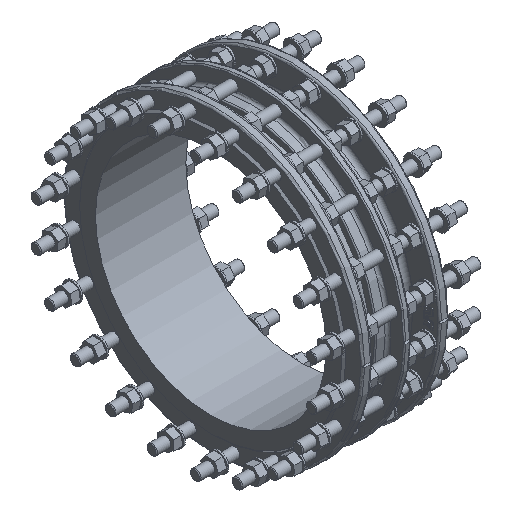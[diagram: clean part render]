
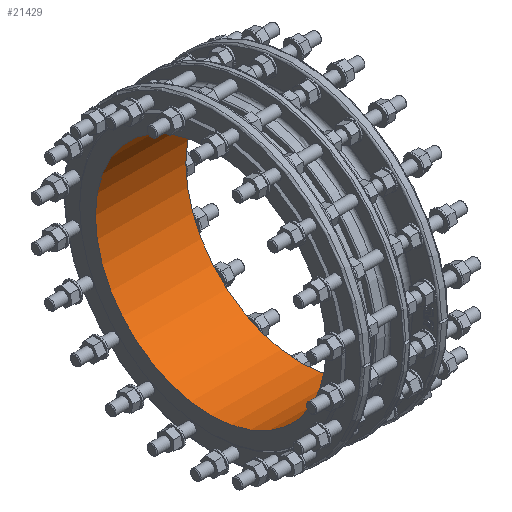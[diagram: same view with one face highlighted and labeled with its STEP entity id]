
A CAD part, isometric view. The second image highlights one B-rep face of the part: STEP entity #21429.
In plain terms, the highlighted cylindrical face has radius 300 mm (diameter 600 mm), a full revolution.
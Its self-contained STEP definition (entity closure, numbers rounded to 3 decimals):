
#341 = EDGE_LOOP ( 'NONE', ( #22688 ) ) ;
#1053 = CARTESIAN_POINT ( 'NONE',  ( -16., 0., 0. ) ) ;
#1411 = EDGE_CURVE ( 'NONE', #31275, #31275, #33744, .T. ) ;
#1559 = FACE_OUTER_BOUND ( 'NONE', #4407, .T. ) ;
#1911 = CYLINDRICAL_SURFACE ( 'NONE', #34975, 300. ) ;
#4407 = EDGE_LOOP ( 'NONE', ( #14507 ) ) ;
#4454 = DIRECTION ( 'NONE',  ( 0., 0., 1. ) ) ;
#7522 = DIRECTION ( 'NONE',  ( -1., 0., 0. ) ) ;
#14507 = ORIENTED_EDGE ( 'NONE', *, *, #1411, .F. ) ;
#15172 = CARTESIAN_POINT ( 'NONE',  ( -16., 0., -300. ) ) ;
#15300 = CARTESIAN_POINT ( 'NONE',  ( 0., 0., 0. ) ) ;
#16412 = AXIS2_PLACEMENT_3D ( 'NONE', #1053, #23839, #26199 ) ;
#17444 = CARTESIAN_POINT ( 'NONE',  ( 219., 0., 300. ) ) ;
#18912 = DIRECTION ( 'NONE',  ( -1., 0., 0. ) ) ;
#21267 = FACE_OUTER_BOUND ( 'NONE', #341, .T. ) ;
#21429 = ADVANCED_FACE ( 'NONE', ( #21267, #1559 ), #1911, .F. ) ;
#21532 = EDGE_CURVE ( 'NONE', #31195, #31195, #31351, .T. ) ;
#22688 = ORIENTED_EDGE ( 'NONE', *, *, #21532, .F. ) ;
#23839 = DIRECTION ( 'NONE',  ( 1., 0., 0. ) ) ;
#24335 = DIRECTION ( 'NONE',  ( 0., 0., 1. ) ) ;
#26199 = DIRECTION ( 'NONE',  ( 0., 0., -1. ) ) ;
#27397 = CARTESIAN_POINT ( 'NONE',  ( 219., 0., 0. ) ) ;
#31195 = VERTEX_POINT ( 'NONE', #17444 ) ;
#31275 = VERTEX_POINT ( 'NONE', #15172 ) ;
#31351 = CIRCLE ( 'NONE', #32504, 300. ) ;
#32504 = AXIS2_PLACEMENT_3D ( 'NONE', #27397, #18912, #24335 ) ;
#33744 = CIRCLE ( 'NONE', #16412, 300. ) ;
#34975 = AXIS2_PLACEMENT_3D ( 'NONE', #15300, #7522, #4454 ) ;
